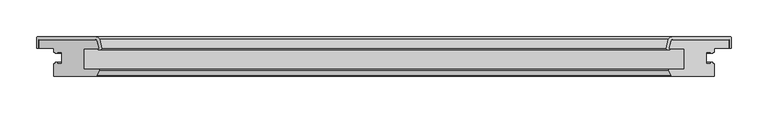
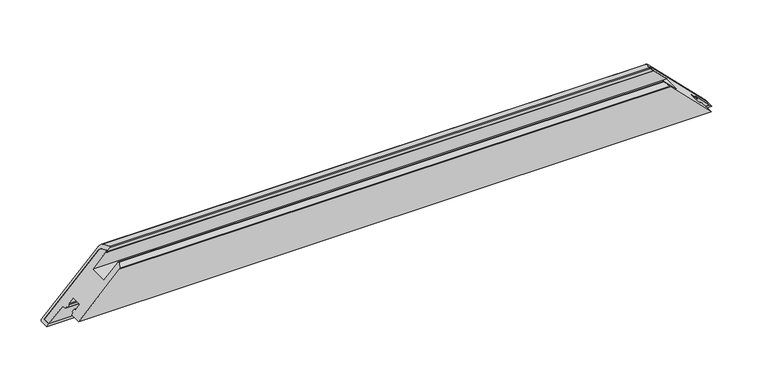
"""IFC4 building model written with IfcOpenShell, lengths in millimetres: proxy geometry, Weiku - Montante - Folha 02.2.01.018 : Weiku - Montante - Folha 02.2.01.018."""

from ifc_helpers import new_model, si_unit, frame, origin, place, context, project, spatial, polyline, ellipse_curve, source, transform, mapped, element, save
from ifc_brep_helpers import plane_surface, cylinder_surface, revolved_surface, advanced_brep


def generic_models_745ea3ba(model_context):
    return source(origin(), model_context, "Body", "AdvancedBrep", [
        advanced_brep(
        [(470.5, 50.0, 0.0), (393.4997332, 50.0, 77.0002668), (-393.4997332, 50.0, 77.0002668), (-470.5, 50.0, 0.0), (390.6019557, 47.7764571, 79.8980443), (-390.6019557, 47.7764571, 79.8980443), (388.0170371, 38.1294095, 82.4829629), (-388.0170371, 38.1294095, 82.4829629), (388.5, 37.5, 82.0), (-388.5, 37.5, 82.0), (389.3560102, 37.5, 81.1439898), (-389.3560102, 37.5, 81.1439898), (389.3560102, 36.5, 81.1439898), (-389.3560102, 36.5, 81.1439898), (384.7425588, 36.5, 85.7574412), (-384.7425588, 36.5, 85.7574412), (383.7766329, 37.758819, 86.7233671), (-383.7766329, 37.758819, 86.7233671), (387.1354501, 50.2940952, 83.3645499), (-387.1354501, 50.2940952, 83.3645499), (391.9650792, 54.0, 78.5349208), (-391.9650792, 54.0, 78.5349208), (471.5, 54.0, -1.0), (-471.5, 54.0, -1.0), (473.5, 52.0, -3.0), (-473.5, 52.0, -3.0), (473.5, 38.5, -3.0), (-473.5, 38.5, -3.0), (470.5, 38.5, 0.0), (-470.5, 38.5, 0.0)],
        [
            (0, 1),
            (1, 2),
            (2, 3),
            (3, 0),
            (1, 4, ellipse_curve(frame((393.4997332, 47.0, 77.0002668), z_axis=(0.7071067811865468, 0.0, 0.7071067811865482), x_axis=(0.7071067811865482, 0.0, -0.7071067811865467)), 4.2426407, 3.0)),
            (4, 5),
            (5, 2, ellipse_curve(frame((-393.4997332, 47.0, 77.0002668), z_axis=(-0.7071067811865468, 0.0, 0.7071067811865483), x_axis=(0.7071067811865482, 0.0, 0.7071067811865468)), 4.2426407, 3.0)),
            (4, 6),
            (6, 7),
            (7, 5),
            (6, 8, ellipse_curve(frame((388.5, 38.0, 82.0), z_axis=(0.7071067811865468, 0.0, 0.7071067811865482), x_axis=(0.7071067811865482, 0.0, -0.7071067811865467)), 0.7071068, 0.5)),
            (8, 9),
            (9, 7, ellipse_curve(frame((-388.5, 38.0, 82.0), z_axis=(-0.7071067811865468, 0.0, 0.7071067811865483), x_axis=(0.7071067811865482, 0.0, 0.7071067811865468)), 0.7071068, 0.5)),
            (8, 10),
            (10, 11),
            (11, 9),
            (10, 12, ellipse_curve(frame((389.3560102, 37.0, 81.1439898), z_axis=(-0.7071067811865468, 0.0, -0.7071067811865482), x_axis=(-0.7071067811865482, 0.0, 0.7071067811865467)), 0.7071068, 0.5)),
            (12, 13),
            (13, 11, ellipse_curve(frame((-389.3560102, 37.0, 81.1439898), z_axis=(0.7071067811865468, 0.0, -0.7071067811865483), x_axis=(-0.7071067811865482, 0.0, -0.7071067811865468)), 0.7071068, 0.5)),
            (12, 14),
            (14, 15),
            (15, 13),
            (14, 16, ellipse_curve(frame((384.7425588, 37.5, 85.7574412), z_axis=(-0.7071067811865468, 0.0, -0.7071067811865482), x_axis=(-0.7071067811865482, 0.0, 0.7071067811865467)), 1.4142136, 1.0)),
            (16, 17),
            (17, 15, ellipse_curve(frame((-384.7425588, 37.5, 85.7574412), z_axis=(0.7071067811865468, 0.0, -0.7071067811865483), x_axis=(-0.7071067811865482, 0.0, -0.7071067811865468)), 1.4142136, 1.0)),
            (16, 18),
            (18, 19),
            (19, 17),
            (18, 20, ellipse_curve(frame((391.9650792, 49.0, 78.5349208), z_axis=(-0.7071067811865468, 0.0, -0.7071067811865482), x_axis=(-0.7071067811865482, 0.0, 0.7071067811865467)), 7.0710678, 5.0)),
            (20, 21),
            (21, 19, ellipse_curve(frame((-391.9650792, 49.0, 78.5349208), z_axis=(0.7071067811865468, 0.0, -0.7071067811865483), x_axis=(-0.7071067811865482, 0.0, -0.7071067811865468)), 7.0710678, 5.0)),
            (20, 22),
            (22, 23),
            (23, 21),
            (22, 24, ellipse_curve(frame((471.5, 52.0, -1.0), z_axis=(-0.7071067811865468, 0.0, -0.7071067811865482), x_axis=(-0.7071067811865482, 0.0, 0.7071067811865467)), 2.8284271, 2.0)),
            (24, 25),
            (25, 23, ellipse_curve(frame((-471.5, 52.0, -1.0), z_axis=(0.7071067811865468, 0.0, -0.7071067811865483), x_axis=(-0.7071067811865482, 0.0, -0.7071067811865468)), 2.8284271, 2.0)),
            (24, 26),
            (26, 27),
            (27, 25),
            (26, 28),
            (28, 29),
            (29, 27),
            (28, 0),
            (3, 29),
        ],
        [
            plane_surface(frame((-490.5, 50.0, 0.0), z_axis=(0.0, -1.0, 0.0), x_axis=(1.0, 0.0, 0.0))),
            revolved_surface(polyline([(396.49973320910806, 50.0, 77.0002668), (-396.49973320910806, 50.0, 77.0002668)]), (-490.5, 47.0, 77.0002668), (1.0, 0.0, 0.0)),
            plane_surface(frame((-490.5, 47.7764571, 79.8980443), z_axis=(0.0, -0.2588190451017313, -0.9659258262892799), x_axis=(1.0, 0.0, 0.0))),
            revolved_surface(polyline([(389.00000001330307, 38.5, 82.0), (-389.0000000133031, 38.5, 82.0)]), (-490.5, 38.0, 82.0), (1.0, 0.0, 0.0)),
            plane_surface(frame((-490.5, 37.5, 82.0), z_axis=(0.0, 1.0, 0.0), x_axis=(1.0, 0.0, 0.0))),
            cylinder_surface(frame((-490.5, 37.0, 81.1439898), z_axis=(-1.0, 0.0, 0.0), x_axis=(0.0, 1.0, 0.0)), 0.5),
            plane_surface(frame((-490.5, 36.5, 81.1439898), z_axis=(0.0, -1.0, 0.0), x_axis=(1.0, 0.0, 0.0))),
            cylinder_surface(frame((-490.5, 37.5, 85.7574412), z_axis=(-1.0, 0.0, 0.0), x_axis=(0.0, 1.0, 0.0)), 1.0),
            plane_surface(frame((-490.5, 37.758819, 86.7233671), z_axis=(0.0, 0.25881904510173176, 0.9659258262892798), x_axis=(1.0, 0.0, 0.0))),
            cylinder_surface(frame((-490.5, 49.0, 78.5349208), z_axis=(-1.0, 0.0, 0.0), x_axis=(0.0, 1.0, 0.0)), 5.0),
            plane_surface(frame((-490.5, 54.0, 78.5349208), z_axis=(0.0, 1.0, 0.0), x_axis=(1.0, 0.0, 0.0))),
            cylinder_surface(frame((-490.5, 52.0, -1.0), z_axis=(-1.0, 0.0, 0.0), x_axis=(0.0, 1.0, 0.0)), 2.0),
            plane_surface(frame((-490.5, 52.0, -3.0), z_axis=(0.0, 0.0, -1.0), x_axis=(1.0, 0.0, 0.0))),
            plane_surface(frame((-490.5, 38.5, -3.0), z_axis=(0.0, -1.0, 0.0), x_axis=(1.0, 0.0, 0.0))),
            plane_surface(frame((-490.5, 38.5, 0.0), z_axis=(0.0, 0.0, 1.0), x_axis=(1.0, 0.0, 0.0))),
            plane_surface(frame((380.5, 0.0, 90.0), z_axis=(0.7071067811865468, 0.0, 0.7071067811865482), x_axis=(0.0, 1.0, 0.0))),
            plane_surface(frame((-498.7842712, 0.0, -28.2842712), z_axis=(-0.7071067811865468, 0.0, 0.7071067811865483), x_axis=(0.0, 1.0, 0.0))),
        ],
        [
            (0, [[1, 2, 3, 4]]),
            (1, [[5, 6, 7, -2]]),
            (2, [[8, 9, 10, -6]]),
            (3, [[11, 12, 13, -9]]),
            (4, [[14, 15, 16, -12]]),
            (5, [[17, 18, 19, -15]]),
            (6, [[20, 21, 22, -18]]),
            (7, [[23, 24, 25, -21]]),
            (8, [[26, 27, 28, -24]]),
            (9, [[29, 30, 31, -27]]),
            (10, [[32, 33, 34, -30]]),
            (11, [[35, 36, 37, -33]]),
            (12, [[38, 39, 40, -36]]),
            (13, [[41, 42, 43, -39]]),
            (14, [[44, -4, 45, -42]]),
            (15, [[-1, -44, -41, -38, -35, -32, -29, -26, -23, -20, -17, -14, -11, -8, -5]]),
            (16, [[-3, -7, -10, -13, -16, -19, -22, -25, -28, -31, -34, -37, -40, -43, -45]]),
        ],
    ),
        advanced_brep(
        [(470.5, 50.0, 0.0), (-470.5, 50.0, 0.0), (-393.4997332, 50.0, 77.0002668), (393.4997332, 50.0, 77.0002668), (470.5, 38.5, 0.0), (-470.5, 38.5, 0.0), (-392.4872264, 0.0, 78.0127736), (-450.5, 0.0, 20.0), (450.5, 0.0, 20.0), (392.4872264, 0.0, 78.0127736), (-450.5, 38.5, 20.0), (-450.5, 33.1, 20.0), (-448.3, 33.1, 22.2), (-448.3, 31.1, 22.2), (-445.5, 31.1, 25.0), (-445.5, 33.1, 25.0), (-439.0, 33.1, 31.5), (-439.0, 16.9, 31.5), (-445.5, 16.9, 25.0), (-445.5, 18.9, 25.0), (-448.3, 18.9, 22.2), (-448.3, 16.9, 22.2), (-450.5, 16.9, 20.0), (-391.5932657, 0.5518546, 78.9067343), (-388.0512796, 7.617411, 82.4487204), (-389.2134285, 9.5, 81.2865715), (-409.0, 9.5, 61.5), (-409.0, 37.5, 61.5), (-388.5, 37.5, 82.0), (-388.0170371, 38.1294095, 82.4829629), (-390.6019557, 47.7764571, 79.8980443), (390.6019557, 47.7764571, 79.8980443), (388.0170371, 38.1294095, 82.4829629), (388.5, 37.5, 82.0), (409.0, 37.5, 61.5), (409.0, 9.5, 61.5), (389.2134285, 9.5, 81.2865715), (388.0512796, 7.617411, 82.4487204), (391.5932657, 0.5518546, 78.9067343), (450.5, 16.9, 20.0), (448.3, 16.9, 22.2), (448.3, 18.9, 22.2), (445.5, 18.9, 25.0), (445.5, 16.9, 25.0), (439.0, 16.9, 31.5), (439.0, 33.1, 31.5), (445.5, 33.1, 25.0), (445.5, 31.1, 25.0), (448.3, 31.1, 22.2), (448.3, 33.1, 22.2), (450.5, 33.1, 20.0), (450.5, 38.5, 20.0)],
        [
            (0, 1),
            (1, 2),
            (2, 3),
            (3, 0),
            (0, 4),
            (4, 5),
            (5, 1),
            (6, 7),
            (7, 8),
            (8, 9),
            (9, 6),
            (5, 10),
            (10, 11),
            (11, 12),
            (12, 13),
            (13, 14),
            (14, 15),
            (15, 16),
            (16, 17),
            (17, 18),
            (18, 19),
            (19, 20),
            (20, 21),
            (21, 22),
            (22, 7),
            (6, 23, ellipse_curve(frame((-392.4872264, 1.0, 78.0127736), z_axis=(-0.7071067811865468, 0.0, 0.7071067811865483), x_axis=(-0.7071067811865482, 0.0, -0.7071067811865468)), 1.4142136, 1.0)),
            (23, 24),
            (24, 25, ellipse_curve(frame((-389.2134285, 8.2, 81.2865715), z_axis=(-0.7071067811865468, 0.0, 0.7071067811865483), x_axis=(-0.7071067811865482, 0.0, -0.7071067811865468)), 1.8384776, 1.3)),
            (25, 26),
            (26, 27),
            (27, 28),
            (28, 29, ellipse_curve(frame((-388.5, 38.0, 82.0), z_axis=(-0.7071067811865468, 0.0, 0.7071067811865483), x_axis=(-0.7071067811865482, 0.0, -0.7071067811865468)), 0.7071068, 0.5)),
            (29, 30),
            (30, 2, ellipse_curve(frame((-393.4997332, 47.0, 77.0002668), z_axis=(-0.7071067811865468, 0.0, 0.7071067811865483), x_axis=(-0.7071067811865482, 0.0, -0.7071067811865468)), 4.2426407, 3.0)),
            (3, 31, ellipse_curve(frame((393.4997332, 47.0, 77.0002668), z_axis=(0.7071067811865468, 0.0, 0.7071067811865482), x_axis=(-0.7071067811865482, 0.0, 0.7071067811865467)), 4.2426407, 3.0)),
            (31, 32),
            (32, 33, ellipse_curve(frame((388.5, 38.0, 82.0), z_axis=(0.7071067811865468, 0.0, 0.7071067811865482), x_axis=(-0.7071067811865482, 0.0, 0.7071067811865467)), 0.7071068, 0.5)),
            (33, 34),
            (34, 35),
            (35, 36),
            (36, 37, ellipse_curve(frame((389.2134285, 8.2, 81.2865715), z_axis=(0.7071067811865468, 0.0, 0.7071067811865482), x_axis=(-0.7071067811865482, 0.0, 0.7071067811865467)), 1.8384776, 1.3)),
            (37, 38),
            (38, 9, ellipse_curve(frame((392.4872264, 1.0, 78.0127736), z_axis=(0.7071067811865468, 0.0, 0.7071067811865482), x_axis=(-0.7071067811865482, 0.0, 0.7071067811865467)), 1.4142136, 1.0)),
            (8, 39),
            (39, 40),
            (40, 41),
            (41, 42),
            (42, 43),
            (43, 44),
            (44, 45),
            (45, 46),
            (46, 47),
            (47, 48),
            (48, 49),
            (49, 50),
            (50, 51),
            (51, 4),
            (38, 23),
            (37, 24),
            (36, 25),
            (35, 26),
            (34, 27),
            (33, 28),
            (32, 29),
            (31, 30),
            (51, 10),
            (50, 11),
            (49, 12),
            (48, 13),
            (47, 14),
            (46, 15),
            (45, 16),
            (44, 17),
            (43, 18),
            (42, 19),
            (41, 20),
            (40, 21),
            (39, 22),
        ],
        [
            plane_surface(frame((-470.5, 50.0, 77.0002668), z_axis=(0.0, 1.0, 0.0), x_axis=(1.0, 0.0, 0.0))),
            plane_surface(frame((-470.5, 50.0, 0.0), z_axis=(0.0, 0.0, -1.0), x_axis=(1.0, 0.0, 0.0))),
            plane_surface(frame((-470.5, 0.0, 20.0), z_axis=(0.0, -1.0, 0.0), x_axis=(1.0, 0.0, 0.0))),
            plane_surface(frame((-498.7842712, 0.0, -28.2842712), z_axis=(-0.7071067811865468, 0.0, 0.7071067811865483), x_axis=(0.0, 1.0, 0.0))),
            plane_surface(frame((380.5, 0.0, 90.0), z_axis=(0.7071067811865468, 0.0, 0.7071067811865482), x_axis=(0.0, 1.0, 0.0))),
            cylinder_surface(frame((-470.5, 1.0, 78.0127736), z_axis=(-1.0, 0.0, 0.0), x_axis=(0.0, 1.0, 0.0)), 1.0),
            plane_surface(frame((-470.5, 0.5518546, 78.9067343), z_axis=(0.0, -0.4481453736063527, 0.8939606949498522), x_axis=(1.0, 0.0, 0.0))),
            cylinder_surface(frame((-470.5, 8.2, 81.2865715), z_axis=(-1.0, 0.0, 0.0), x_axis=(0.0, 1.0, 0.0)), 1.3),
            plane_surface(frame((-470.5, 9.5, 81.2865715), z_axis=(0.0, 1.0, 0.0), x_axis=(1.0, 0.0, 0.0))),
            plane_surface(frame((-470.5, 9.5, 61.5), z_axis=(0.0, 0.0, 1.0), x_axis=(1.0, 0.0, 0.0))),
            plane_surface(frame((-470.5, 37.5, 61.5), z_axis=(0.0, -1.0, 0.0), x_axis=(1.0, 0.0, 0.0))),
            cylinder_surface(frame((-470.5, 38.0, 82.0), z_axis=(-1.0, 0.0, 0.0), x_axis=(0.0, 1.0, 0.0)), 0.5),
            plane_surface(frame((-470.5, 38.1294095, 82.4829629), z_axis=(0.0, 0.2588190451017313, 0.9659258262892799), x_axis=(1.0, 0.0, 0.0))),
            cylinder_surface(frame((-470.5, 47.0, 77.0002668), z_axis=(-1.0, 0.0, 0.0), x_axis=(0.0, 1.0, 0.0)), 3.0),
            plane_surface(frame((-470.5, 38.5, 0.0), z_axis=(0.0, -1.0, 0.0), x_axis=(1.0, 0.0, 0.0))),
            plane_surface(frame((-470.5, 38.5, 20.0), z_axis=(0.0, 0.0, -1.0), x_axis=(1.0, 0.0, 0.0))),
            plane_surface(frame((-470.5, 33.1, 20.0), z_axis=(0.0, -1.0, 0.0), x_axis=(1.0, 0.0, 0.0))),
            plane_surface(frame((-470.5, 33.1, 22.2), z_axis=(0.0, 0.0, -1.0), x_axis=(1.0, 0.0, 0.0))),
            plane_surface(frame((-470.5, 31.1, 22.2), z_axis=(0.0, -1.0, 0.0), x_axis=(1.0, 0.0, 0.0))),
            plane_surface(frame((-470.5, 31.1, 25.0), z_axis=(0.0, 0.0, 1.0), x_axis=(1.0, 0.0, 0.0))),
            plane_surface(frame((-470.5, 33.1, 25.0), z_axis=(0.0, -1.0, 0.0), x_axis=(1.0, 0.0, 0.0))),
            plane_surface(frame((-470.5, 33.1, 31.5), z_axis=(0.0, 0.0, -1.0), x_axis=(1.0, 0.0, 0.0))),
            plane_surface(frame((-470.5, 16.9, 31.5), z_axis=(0.0, 1.0, 0.0), x_axis=(1.0, 0.0, 0.0))),
            plane_surface(frame((-470.5, 16.9, 25.0), z_axis=(0.0, 0.0, 1.0), x_axis=(1.0, 0.0, 0.0))),
            plane_surface(frame((-470.5, 18.9, 25.0), z_axis=(0.0, 1.0, 0.0), x_axis=(1.0, 0.0, 0.0))),
            plane_surface(frame((-470.5, 18.9, 22.2), z_axis=(0.0, 0.0, -1.0), x_axis=(1.0, 0.0, 0.0))),
            plane_surface(frame((-470.5, 16.9, 22.2), z_axis=(0.0, 1.0, 0.0), x_axis=(1.0, 0.0, 0.0))),
            plane_surface(frame((-470.5, 16.9, 20.0), z_axis=(0.0, 0.0, -1.0), x_axis=(1.0, 0.0, 0.0))),
        ],
        [
            (0, [[1, 2, 3, 4]]),
            (1, [[-1, 5, 6, 7]]),
            (2, [[8, 9, 10, 11]]),
            (3, [[-2, -7, 12, 13, 14, 15, 16, 17, 18, 19, 20, 21, 22, 23, 24, 25, -8, 26, 27, 28, 29, 30, 31, 32, 33, 34]]),
            (4, [[-4, 35, 36, 37, 38, 39, 40, 41, 42, 43, -10, 44, 45, 46, 47, 48, 49, 50, 51, 52, 53, 54, 55, 56, 57, -5]]),
            (5, [[-26, -11, -43, 58]]),
            (6, [[-27, -58, -42, 59]]),
            (7, [[-28, -59, -41, 60]]),
            (8, [[-29, -60, -40, 61]]),
            (9, [[-30, -61, -39, 62]]),
            (10, [[-31, -62, -38, 63]]),
            (11, [[-32, -63, -37, 64]]),
            (12, [[-33, -64, -36, 65]]),
            (13, [[-34, -65, -35, -3]]),
            (14, [[-6, -57, 66, -12]]),
            (15, [[-13, -66, -56, 67]]),
            (16, [[-14, -67, -55, 68]]),
            (17, [[-15, -68, -54, 69]]),
            (18, [[-16, -69, -53, 70]]),
            (19, [[-17, -70, -52, 71]]),
            (20, [[-18, -71, -51, 72]]),
            (21, [[-19, -72, -50, 73]]),
            (22, [[-20, -73, -49, 74]]),
            (23, [[-21, -74, -48, 75]]),
            (24, [[-22, -75, -47, 76]]),
            (25, [[-23, -76, -46, 77]]),
            (26, [[-24, -77, -45, 78]]),
            (27, [[-25, -78, -44, -9]]),
        ],
    ),
    ])


if __name__ == "__main__":
    model = new_model("IFC4")
    model_context = context("Model", 3, world=origin())
    ifc_project = project(units=[si_unit("LENGTHUNIT", "METRE", prefix="MILLI")], contexts=[model_context])
    site = spatial("IfcSite", under=ifc_project)
    building = spatial("IfcBuilding", under=site)
    placement = place(None, origin())
    generic_models_shape = generic_models_745ea3ba(model_context)
    element("IfcBuildingElementProxy", 1, Name="Weiku - Montante - Folha 02.2.01.018 : Weiku - Montante - Folha 02.2.01.018", ObjectType="Weiku - Montante - Folha 02.2.01.018 : Weiku - Montante - Folha 02.2.01.018", at=placement, inside=building, context=model_context, shape_type="MappedRepresentation", body=[
        mapped(generic_models_shape, transform((0.0, 0.0, 0.0), x_axis=(1.0, 0.0, 0.0), y_axis=(0.0, 1.0, 0.0), z_axis=(0.0, 0.0, 1.0))),
    ])
    save(model, "model.ifc")
